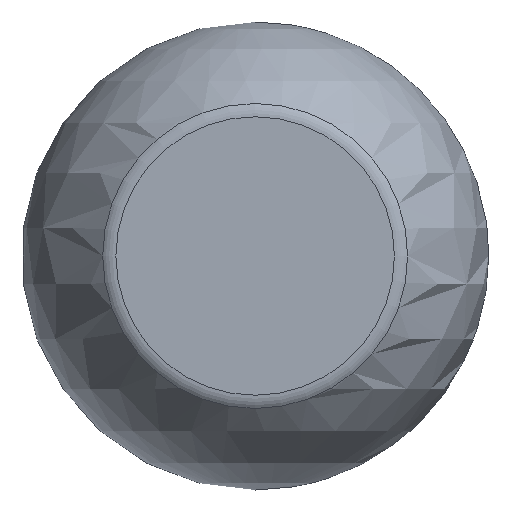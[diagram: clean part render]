
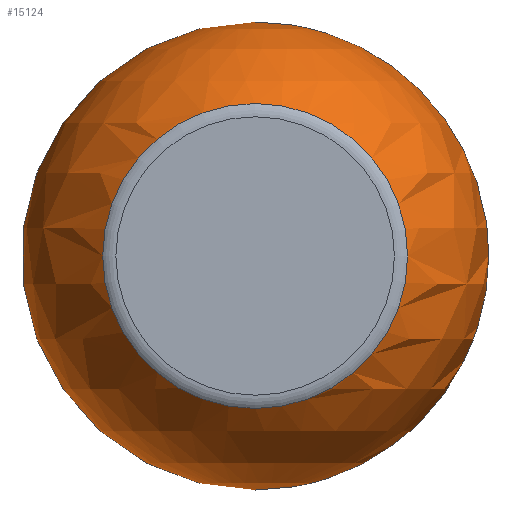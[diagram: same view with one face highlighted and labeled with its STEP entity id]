
A CAD part, left-side view. The second image highlights one B-rep face of the part: STEP entity #15124.
In plain terms, the highlighted spherical face has radius 18.326 mm.
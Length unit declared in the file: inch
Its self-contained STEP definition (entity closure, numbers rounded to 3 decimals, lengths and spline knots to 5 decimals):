
#28=SPHERICAL_SURFACE('',#15966,0.7215);
#144=FACE_BOUND('',#2617,.T.);
#145=FACE_BOUND('',#2618,.T.);
#2617=EDGE_LOOP('',(#14077));
#2618=EDGE_LOOP('',(#14078));
#5158=CIRCLE('',#15965,0.47012);
#5159=CIRCLE('',#15967,0.40333);
#7427=VERTEX_POINT('',#35832);
#7428=VERTEX_POINT('',#35835);
#9651=EDGE_CURVE('',#7427,#7427,#5158,.T.);
#9652=EDGE_CURVE('',#7428,#7428,#5159,.T.);
#14077=ORIENTED_EDGE('',*,*,#9651,.T.);
#14078=ORIENTED_EDGE('',*,*,#9652,.F.);
#15124=ADVANCED_FACE('',(#144,#145),#28,.T.);
#15965=AXIS2_PLACEMENT_3D('',#35833,#18618,#18619);
#15966=AXIS2_PLACEMENT_3D('',#35834,#18620,#18621);
#15967=AXIS2_PLACEMENT_3D('',#35836,#18622,#18623);
#18618=DIRECTION('center_axis',(1.,0.,0.));
#18619=DIRECTION('ref_axis',(0.,0.,-1.));
#18620=DIRECTION('center_axis',(0.,0.,1.));
#18621=DIRECTION('ref_axis',(1.,0.,0.));
#18622=DIRECTION('center_axis',(1.,0.,0.));
#18623=DIRECTION('ref_axis',(0.,0.,-1.));
#35832=CARTESIAN_POINT('',(0.01509,0.46812,0.));
#35833=CARTESIAN_POINT('Origin',(0.01509,-0.002,
0.));
#35834=CARTESIAN_POINT('Origin',(0.5624,-0.002,0.));
#35835=CARTESIAN_POINT('',(1.16064,0.40133,0.));
#35836=CARTESIAN_POINT('Origin',(1.16064,-0.002,
0.));
